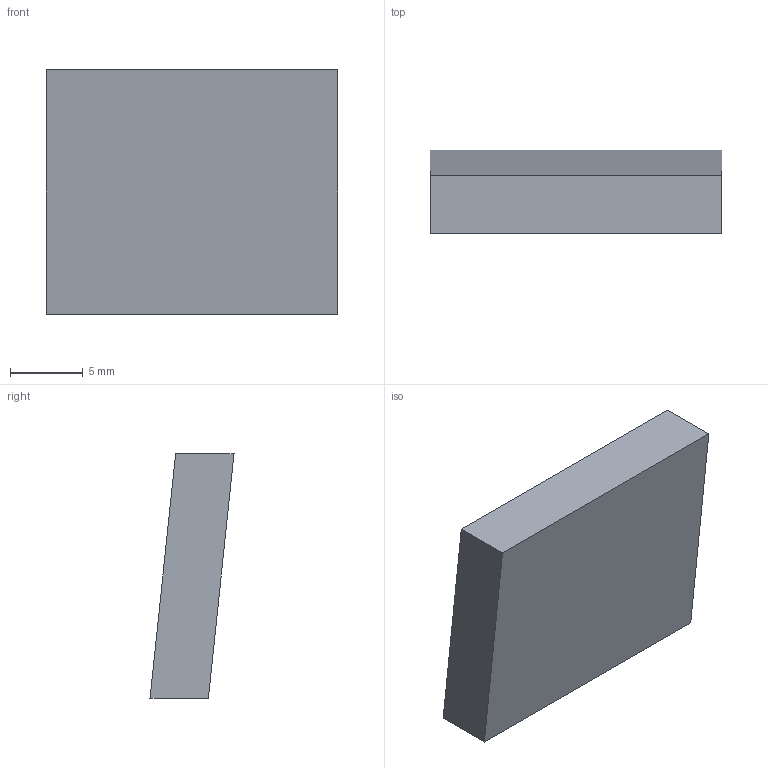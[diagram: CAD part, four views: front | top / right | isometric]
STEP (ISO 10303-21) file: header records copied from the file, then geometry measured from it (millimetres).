
FILE_DESCRIPTION(('Open CASCADE Model'),'2;1');
FILE_NAME('Open CASCADE Shape Model','2026-10-16T00:30:56',('Author'),( 'Open CASCADE'),'Open CASCADE STEP processor 7.9','Open CASCADE 7.9' ,'Unknown');
FILE_SCHEMA(('AUTOMOTIVE_DESIGN { 1 0 10303 214 1 1 1 1 }'));
Length unit declared in the file: millimetre
Products named in the file (1): Open CASCADE STEP translator 7.9 17
Bounding box: 20 x 5.76 x 16.75 mm (x, y, z)
Volume: 1340 mm3; surface area: 967.7 mm2
Topology: 1 solids, 1 shells, 6 faces, 12 edges, 8 vertices
Faces by surface type: plane 6
Entity records: 322 total; most frequent: CARTESIAN_POINT 51, DIRECTION 50, LINE 36, VECTOR 36, ORIENTED_EDGE 24, PCURVE 24, DEFINITIONAL_REPRESENTATION 24, EDGE_CURVE 12
